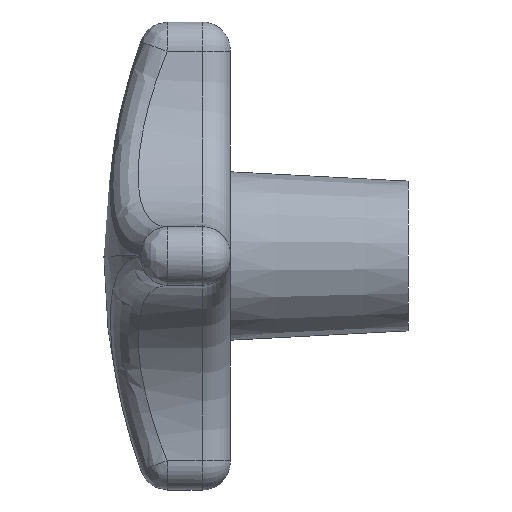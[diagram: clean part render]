
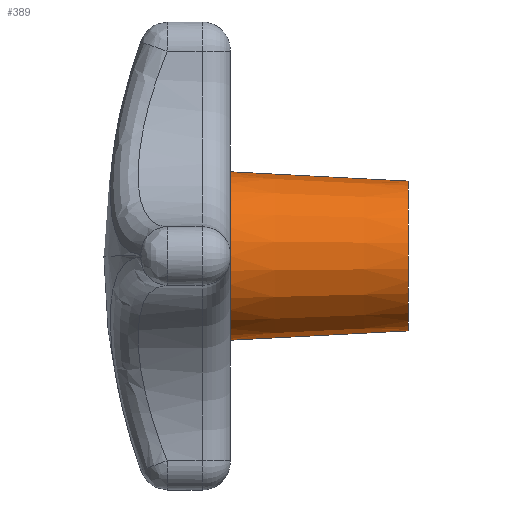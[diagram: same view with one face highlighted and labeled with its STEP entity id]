
A CAD part, left-side view. The second image highlights one B-rep face of the part: STEP entity #389.
In plain terms, the highlighted conical face has half-angle 3 degrees and reference radius 16 mm.
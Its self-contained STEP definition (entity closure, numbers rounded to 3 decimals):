
#204 = VERTEX_POINT ( 'NONE', #1178 ) ;
#206 = EDGE_CURVE ( 'NONE', #208, #204, #1177, .T. ) ;
#208 = VERTEX_POINT ( 'NONE', #1173 ) ;
#209 = VERTEX_POINT ( 'NONE', #1172 ) ;
#211 = EDGE_CURVE ( 'NONE', #209, #212, #1171, .T. ) ;
#212 = VERTEX_POINT ( 'NONE', #1167 ) ;
#335 = EDGE_LOOP ( 'NONE', ( #383, #387, #386, #449 ) ) ;
#383 = ORIENTED_EDGE ( 'NONE', *, *, #211, .F. ) ;
#384 = EDGE_CURVE ( 'NONE', #209, #208, #1435, .T. ) ;
#386 = ORIENTED_EDGE ( 'NONE', *, *, #206, .T. ) ;
#387 = ORIENTED_EDGE ( 'NONE', *, *, #384, .T. ) ;
#389 = ADVANCED_FACE ( 'NONE', ( #1427 ), #1426, .T. ) ;
#393 = EDGE_CURVE ( 'NONE', #212, #204, #1489, .T. ) ;
#449 = ORIENTED_EDGE ( 'NONE', *, *, #393, .F. ) ;
#1167 = CARTESIAN_POINT ( 'NONE',  ( 0., 0., -17.991 ) ) ;
#1168 = DIRECTION ( 'NONE',  ( 0., 0.999, -0.052 ) ) ;
#1169 = VECTOR ( 'NONE', #1168, 1000. ) ;
#1170 = CARTESIAN_POINT ( 'NONE',  ( 0., -38., -16. ) ) ;
#1171 = LINE ( 'NONE', #1170, #1169 ) ;
#1172 = CARTESIAN_POINT ( 'NONE',  ( 0., -38., -16. ) ) ;
#1173 = CARTESIAN_POINT ( 'NONE',  ( 0., -38., 16. ) ) ;
#1174 = DIRECTION ( 'NONE',  ( 0., 0.999, 0.052 ) ) ;
#1175 = VECTOR ( 'NONE', #1174, 1000. ) ;
#1176 = CARTESIAN_POINT ( 'NONE',  ( 0., -38., 16. ) ) ;
#1177 = LINE ( 'NONE', #1176, #1175 ) ;
#1178 = CARTESIAN_POINT ( 'NONE',  ( 0., 0., 17.991 ) ) ;
#1422 = DIRECTION ( 'NONE',  ( 0., 0., 1. ) ) ;
#1423 = DIRECTION ( 'NONE',  ( 0., 1., 0. ) ) ;
#1424 = CARTESIAN_POINT ( 'NONE',  ( 0., -38., 0. ) ) ;
#1425 = AXIS2_PLACEMENT_3D ( 'NONE', #1424, #1423, #1422 ) ;
#1426 = CONICAL_SURFACE ( 'NONE', #1425, 16., 0.052 ) ;
#1427 = FACE_OUTER_BOUND ( 'NONE', #335, .T. ) ;
#1431 = DIRECTION ( 'NONE',  ( 0., 0., 1. ) ) ;
#1432 = DIRECTION ( 'NONE',  ( 0., 1., 0. ) ) ;
#1433 = CARTESIAN_POINT ( 'NONE',  ( 0., -38., 0. ) ) ;
#1434 = AXIS2_PLACEMENT_3D ( 'NONE', #1433, #1432, #1431 ) ;
#1435 = CIRCLE ( 'NONE', #1434, 16. ) ;
#1485 = DIRECTION ( 'NONE',  ( 0., 0., 1. ) ) ;
#1486 = DIRECTION ( 'NONE',  ( 0., 1., 0. ) ) ;
#1487 = CARTESIAN_POINT ( 'NONE',  ( 0., 0., 0. ) ) ;
#1488 = AXIS2_PLACEMENT_3D ( 'NONE', #1487, #1486, #1485 ) ;
#1489 = CIRCLE ( 'NONE', #1488, 17.991 ) ;
